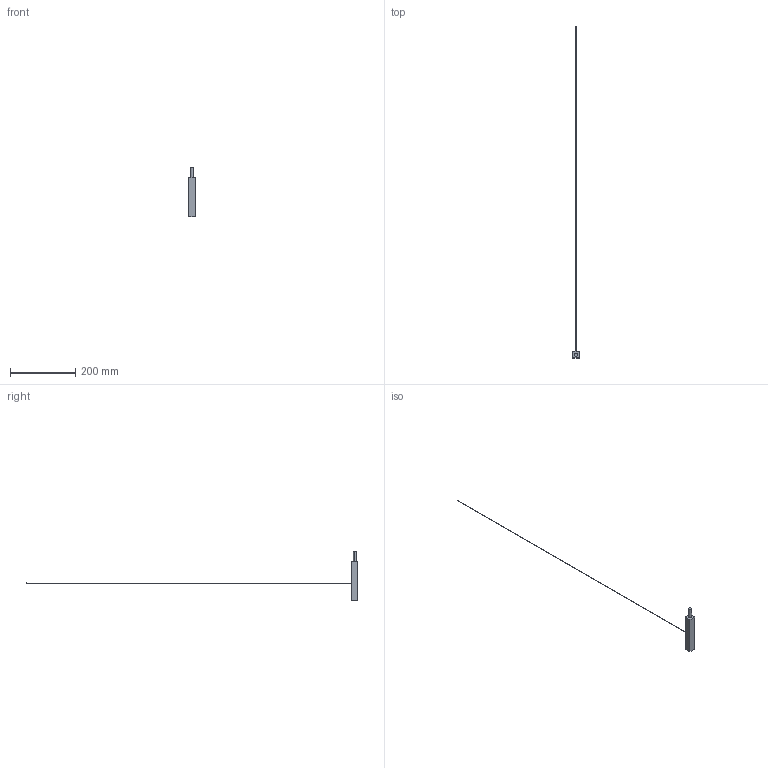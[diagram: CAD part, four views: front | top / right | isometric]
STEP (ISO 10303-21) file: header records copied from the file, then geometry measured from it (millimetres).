
FILE_DESCRIPTION (( 'STEP AP214' ), '1' );
FILE_NAME ('3D_LINESCAPES_HORIZ_END.STEP', '2018-03-02T15:28:55', ( 'Utente' ), ( '' ), 'SwSTEP 2.0', 'SolidWorks 2016', '' );
FILE_SCHEMA (( 'AUTOMOTIVE_DESIGN' ));
Length unit declared in the file: millimetre
Products named in the file (4): TECEND; CAVO1.2END; ESTRUSOEND; 3D_LINESCAPES_HORIZ_END
Assembly tree (3 placements, depth 2):
  3D_LINESCAPES_HORIZ_END
    ESTRUSOEND
    CAVO1.2END
    TECEND
Bounding box: 20 x 1015 x 151 mm (x, y, z)
Volume: 51560.1 mm3; surface area: 15284.3 mm2
Topology: 3 solids, 3 shells, 14 faces, 24 edges, 16 vertices
Faces by surface type: plane 10, cylinder 4
Entity records: 490 total; most frequent: DIRECTION 72, CARTESIAN_POINT 60, ORIENTED_EDGE 48, AXIS2_PLACEMENT_3D 28, EDGE_CURVE 24, VERTEX_POINT 16, LINE 16, VECTOR 16
